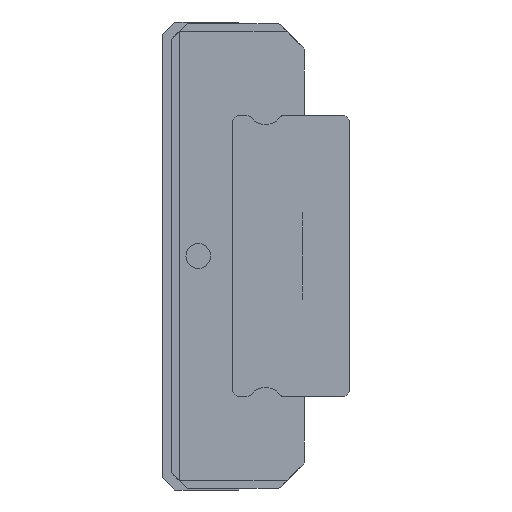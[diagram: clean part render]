
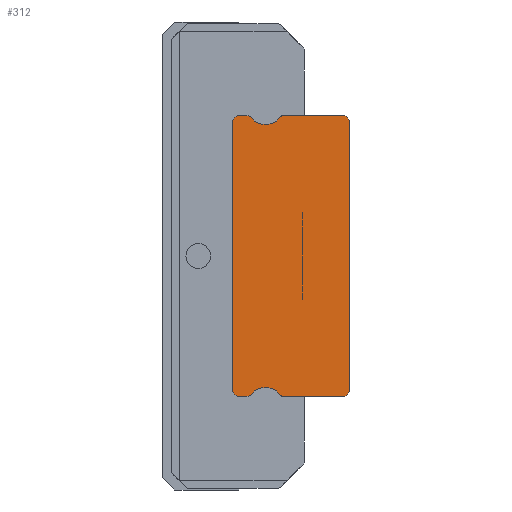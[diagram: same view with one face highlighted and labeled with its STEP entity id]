
A CAD part, left-side view. The second image highlights one B-rep face of the part: STEP entity #312.
In plain terms, the highlighted planar face has unit normal (-1, 0, 0).
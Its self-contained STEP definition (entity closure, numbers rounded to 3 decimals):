
#312 = ADVANCED_FACE( '', ( #912 ), #913, .F. );
#912 = FACE_OUTER_BOUND( '', #1636, .T. );
#913 = PLANE( '', #1637 );
#1636 = EDGE_LOOP( '', ( #3353, #3354, #3355, #3356, #3357, #3358, #3359, #3360, #3361, #3362, #3363, #3364, #3365, #3366, #3367, #3368, #3369, #3370 ) );
#1637 = AXIS2_PLACEMENT_3D( '', #3371, #3372, #3373 );
#3353 = ORIENTED_EDGE( '', *, *, #4801, .F. );
#3354 = ORIENTED_EDGE( '', *, *, #4750, .F. );
#3355 = ORIENTED_EDGE( '', *, *, #4754, .F. );
#3356 = ORIENTED_EDGE( '', *, *, #4757, .F. );
#3357 = ORIENTED_EDGE( '', *, *, #4760, .F. );
#3358 = ORIENTED_EDGE( '', *, *, #4763, .F. );
#3359 = ORIENTED_EDGE( '', *, *, #4766, .F. );
#3360 = ORIENTED_EDGE( '', *, *, #4769, .F. );
#3361 = ORIENTED_EDGE( '', *, *, #4772, .F. );
#3362 = ORIENTED_EDGE( '', *, *, #4775, .F. );
#3363 = ORIENTED_EDGE( '', *, *, #4778, .F. );
#3364 = ORIENTED_EDGE( '', *, *, #4781, .F. );
#3365 = ORIENTED_EDGE( '', *, *, #4784, .F. );
#3366 = ORIENTED_EDGE( '', *, *, #4787, .F. );
#3367 = ORIENTED_EDGE( '', *, *, #4790, .F. );
#3368 = ORIENTED_EDGE( '', *, *, #4793, .F. );
#3369 = ORIENTED_EDGE( '', *, *, #4796, .F. );
#3370 = ORIENTED_EDGE( '', *, *, #4799, .F. );
#3371 = CARTESIAN_POINT( '', ( -5., 0., 0. ) );
#3372 = DIRECTION( '', ( 1., 0., 0. ) );
#3373 = DIRECTION( '', ( 0., 0., -1. ) );
#4750 = EDGE_CURVE( '', #5791, #5793, #5794, .T. );
#4754 = EDGE_CURVE( '', #5798, #5791, #5800, .T. );
#4757 = EDGE_CURVE( '', #5803, #5798, #5805, .T. );
#4760 = EDGE_CURVE( '', #5808, #5803, #5810, .T. );
#4763 = EDGE_CURVE( '', #5813, #5808, #5815, .T. );
#4766 = EDGE_CURVE( '', #5818, #5813, #5820, .T. );
#4769 = EDGE_CURVE( '', #5823, #5818, #5825, .T. );
#4772 = EDGE_CURVE( '', #5828, #5823, #5830, .T. );
#4775 = EDGE_CURVE( '', #5833, #5828, #5835, .T. );
#4778 = EDGE_CURVE( '', #5838, #5833, #5840, .T. );
#4781 = EDGE_CURVE( '', #5843, #5838, #5845, .T. );
#4784 = EDGE_CURVE( '', #5848, #5843, #5850, .T. );
#4787 = EDGE_CURVE( '', #5853, #5848, #5855, .T. );
#4790 = EDGE_CURVE( '', #5858, #5853, #5860, .T. );
#4793 = EDGE_CURVE( '', #5863, #5858, #5865, .T. );
#4796 = EDGE_CURVE( '', #5868, #5863, #5870, .T. );
#4799 = EDGE_CURVE( '', #5873, #5868, #5875, .T. );
#4801 = EDGE_CURVE( '', #5793, #5873, #5877, .T. );
#5791 = VERTEX_POINT( '', #7200 );
#5793 = VERTEX_POINT( '', #7203 );
#5794 = LINE( '', #7204, #7205 );
#5798 = VERTEX_POINT( '', #7210 );
#5800 = CIRCLE( '', #7213, 0.15 );
#5803 = VERTEX_POINT( '', #7216 );
#5805 = CIRCLE( '', #7219, 1.1 );
#5808 = VERTEX_POINT( '', #7222 );
#5810 = CIRCLE( '', #7225, 1.1 );
#5813 = VERTEX_POINT( '', #7228 );
#5815 = CIRCLE( '', #7231, 0.15 );
#5818 = VERTEX_POINT( '', #7235 );
#5820 = LINE( '', #7238, #7239 );
#5823 = VERTEX_POINT( '', #7243 );
#5825 = LINE( '', #7246, #7247 );
#5828 = VERTEX_POINT( '', #7251 );
#5830 = LINE( '', #7254, #7255 );
#5833 = VERTEX_POINT( '', #7259 );
#5835 = LINE( '', #7262, #7263 );
#5838 = VERTEX_POINT( '', #7267 );
#5840 = LINE( '', #7270, #7271 );
#5843 = VERTEX_POINT( '', #7274 );
#5845 = CIRCLE( '', #7277, 0.15 );
#5848 = VERTEX_POINT( '', #7280 );
#5850 = CIRCLE( '', #7283, 1.1 );
#5853 = VERTEX_POINT( '', #7286 );
#5855 = CIRCLE( '', #7289, 1.1 );
#5858 = VERTEX_POINT( '', #7292 );
#5860 = CIRCLE( '', #7295, 0.15 );
#5863 = VERTEX_POINT( '', #7299 );
#5865 = LINE( '', #7302, #7303 );
#5868 = VERTEX_POINT( '', #7307 );
#5870 = LINE( '', #7310, #7311 );
#5873 = VERTEX_POINT( '', #7315 );
#5875 = LINE( '', #7318, #7319 );
#5877 = LINE( '', #7322, #7323 );
#7200 = CARTESIAN_POINT( '', ( -5., 4.291, 9. ) );
#7203 = CARTESIAN_POINT( '', ( -5., 0.3, 9. ) );
#7204 = CARTESIAN_POINT( '', ( -5., 4.291, 9. ) );
#7205 = VECTOR( '', #9006, 1. );
#7210 = CARTESIAN_POINT( '', ( -5., 4.417, 8.932 ) );
#7213 = AXIS2_PLACEMENT_3D( '', #9012, #9013, #9014 );
#7216 = CARTESIAN_POINT( '', ( -5., 5.4, 8.432 ) );
#7219 = AXIS2_PLACEMENT_3D( '', #9019, #9020, #9021 );
#7222 = CARTESIAN_POINT( '', ( -5., 6.383, 8.932 ) );
#7225 = AXIS2_PLACEMENT_3D( '', #9026, #9027, #9028 );
#7228 = CARTESIAN_POINT( '', ( -5., 6.509, 9. ) );
#7231 = AXIS2_PLACEMENT_3D( '', #9033, #9034, #9035 );
#7235 = CARTESIAN_POINT( '', ( -5., 7.2, 9. ) );
#7238 = CARTESIAN_POINT( '', ( -5., 7.2, 9. ) );
#7239 = VECTOR( '', #9038, 1. );
#7243 = CARTESIAN_POINT( '', ( -5., 7.5, 8.7 ) );
#7246 = CARTESIAN_POINT( '', ( -5., 7.5, 8.7 ) );
#7247 = VECTOR( '', #9041, 1. );
#7251 = CARTESIAN_POINT( '', ( -5., 7.5, -8.7 ) );
#7254 = CARTESIAN_POINT( '', ( -5., 7.5, -8.7 ) );
#7255 = VECTOR( '', #9044, 1. );
#7259 = CARTESIAN_POINT( '', ( -5., 7.2, -9. ) );
#7262 = CARTESIAN_POINT( '', ( -5., 7.2, -9. ) );
#7263 = VECTOR( '', #9047, 1. );
#7267 = CARTESIAN_POINT( '', ( -5., 6.509, -9. ) );
#7270 = CARTESIAN_POINT( '', ( -5., 6.509, -9. ) );
#7271 = VECTOR( '', #9050, 1. );
#7274 = CARTESIAN_POINT( '', ( -5., 6.383, -8.932 ) );
#7277 = AXIS2_PLACEMENT_3D( '', #9055, #9056, #9057 );
#7280 = CARTESIAN_POINT( '', ( -5., 5.4, -8.432 ) );
#7283 = AXIS2_PLACEMENT_3D( '', #9062, #9063, #9064 );
#7286 = CARTESIAN_POINT( '', ( -5., 4.417, -8.932 ) );
#7289 = AXIS2_PLACEMENT_3D( '', #9069, #9070, #9071 );
#7292 = CARTESIAN_POINT( '', ( -5., 4.291, -9. ) );
#7295 = AXIS2_PLACEMENT_3D( '', #9076, #9077, #9078 );
#7299 = CARTESIAN_POINT( '', ( -5., 0.3, -9. ) );
#7302 = CARTESIAN_POINT( '', ( -5., 0.3, -9. ) );
#7303 = VECTOR( '', #9081, 1. );
#7307 = CARTESIAN_POINT( '', ( -5., 0., -8.7 ) );
#7310 = CARTESIAN_POINT( '', ( -5., 0., -8.7 ) );
#7311 = VECTOR( '', #9084, 1. );
#7315 = CARTESIAN_POINT( '', ( -5., 0., 8.7 ) );
#7318 = CARTESIAN_POINT( '', ( -5., 0., 8.7 ) );
#7319 = VECTOR( '', #9087, 1. );
#7322 = CARTESIAN_POINT( '', ( -5., 0.3, 9. ) );
#7323 = VECTOR( '', #9089, 1. );
#9006 = DIRECTION( '', ( 0., -1., 0. ) );
#9012 = CARTESIAN_POINT( '', ( -5., 4.291, 8.85 ) );
#9013 = DIRECTION( '', ( 1., 0., 0. ) );
#9014 = DIRECTION( '', ( 0., 0.839, 0.544 ) );
#9019 = CARTESIAN_POINT( '', ( -5., 5.34, 9.53 ) );
#9020 = DIRECTION( '', ( -1., 0., 0. ) );
#9021 = DIRECTION( '', ( 0., 0.055, -0.999 ) );
#9026 = CARTESIAN_POINT( '', ( -5., 5.46, 9.53 ) );
#9027 = DIRECTION( '', ( -1., 0., 0. ) );
#9028 = DIRECTION( '', ( 0., 0.839, -0.544 ) );
#9033 = CARTESIAN_POINT( '', ( -5., 6.509, 8.85 ) );
#9034 = DIRECTION( '', ( 1., 0., 0. ) );
#9035 = DIRECTION( '', ( 0., 0., 1. ) );
#9038 = DIRECTION( '', ( 0., -1., 0. ) );
#9041 = DIRECTION( '', ( 0., -0.707, 0.707 ) );
#9044 = DIRECTION( '', ( 0., 0., 1. ) );
#9047 = DIRECTION( '', ( 0., 0.707, 0.707 ) );
#9050 = DIRECTION( '', ( 0., 1., 0. ) );
#9055 = CARTESIAN_POINT( '', ( -5., 6.509, -8.85 ) );
#9056 = DIRECTION( '', ( 1., 0., 0. ) );
#9057 = DIRECTION( '', ( 0., -0.839, -0.544 ) );
#9062 = CARTESIAN_POINT( '', ( -5., 5.46, -9.53 ) );
#9063 = DIRECTION( '', ( -1., 0., 0. ) );
#9064 = DIRECTION( '', ( 0., -0.055, 0.999 ) );
#9069 = CARTESIAN_POINT( '', ( -5., 5.34, -9.53 ) );
#9070 = DIRECTION( '', ( -1., 0., 0. ) );
#9071 = DIRECTION( '', ( 0., -0.839, 0.544 ) );
#9076 = CARTESIAN_POINT( '', ( -5., 4.291, -8.85 ) );
#9077 = DIRECTION( '', ( 1., 0., 0. ) );
#9078 = DIRECTION( '', ( 0., 0., -1. ) );
#9081 = DIRECTION( '', ( 0., 1., 0. ) );
#9084 = DIRECTION( '', ( 0., 0.707, -0.707 ) );
#9087 = DIRECTION( '', ( 0., 0., -1. ) );
#9089 = DIRECTION( '', ( 0., -0.707, -0.707 ) );
